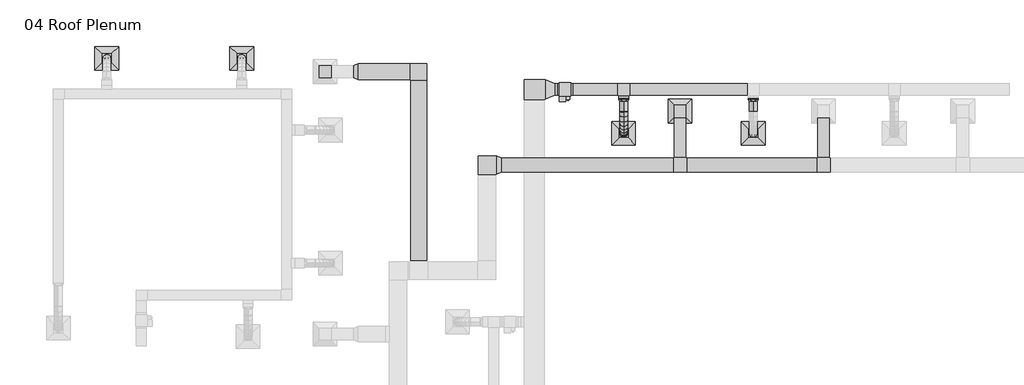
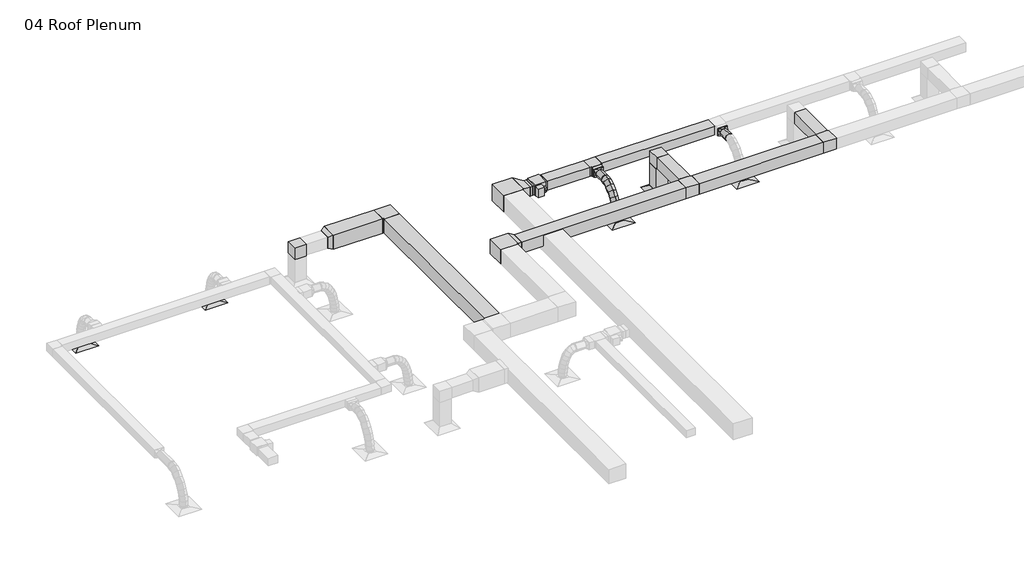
# One storey, part 7 of 9: 15 duct segments, 14 duct fittings, 5 air terminals, 1 proxy.
"""IFC4 building model written with IfcOpenShell, lengths in millimetres."""

from ifc_helpers import new_model, si_unit, point, frame, frame_2d, origin, place, context, project, spatial, polyline, circle_curve, ellipse_curve, trimmed, segment, composite_curve, outline, extrude, transform, mapped, element, save
from ifc_brep_helpers import plane_surface, cylinder_surface, advanced_brep
from components import return_diffuser_d30_returndiffuser_24x24_12x12_connection_ff543d60, supply_diffuser_rectangular_face_round_neck_d30_6390248a, bcn6785_vav_d30_vav3_6c2f60ad, rectangular_elbow_mitered_standard_d1889adf, rectangular_elbow_mitered_standard_946096ac, rectangular_elbow_mitered_standard_3a774ab6, rectangular_elbow_mitered_standard_4ff1c4e8, rectangular_tee_standard_b02a46a0, rectangular_tee_standard_ab376c81, rectangular_transition_angle_45_degree_0e490c41, rectangular_transition_angle_45_degree_c10597de, rectangular_transition_angle_45_degree_766f88a8, rectangular_transition_angle_45_degree_c4f24900, rectangular_to_round_transition_angle_45_degree_e9430680

model = new_model("IFC4")

# Units and contexts
model_context = context("Model", 3, world=origin())
ifc_project = project(units=[si_unit("LENGTHUNIT", "METRE", prefix="MILLI")], contexts=[model_context])

# Site, building, storey
site = spatial("IfcSite", under=ifc_project)
building = spatial("IfcBuilding", under=site)
storey = spatial("IfcBuildingStorey", under=building, Name="04 Roof Plenum", Elevation=12192.0)

# Air terminals
placement = place(None, origin())
return_diffuser_d30_returndiffuser_24x24_12x12_connection_shape = return_diffuser_d30_returndiffuser_24x24_12x12_connection_ff543d60(model_context)
element("IfcAirTerminal", 1, ObjectType="Return Diffuser : D30_ReturnDiffuser_24x24 12x12 Connection", at=placement, inside=storey, context=model_context, shape_type="MappedRepresentation", body=[
    mapped(return_diffuser_d30_returndiffuser_24x24_12x12_connection_shape, transform((-722.5099213, 10669.6809317, 12192.0), x_axis=(1.0, 0.0, 0.0), y_axis=(0.0, 1.0, 0.0), z_axis=(0.0, 0.0, 1.0))),
])
supply_diffuser_rectangular_face_round_neck_d30_shape = supply_diffuser_rectangular_face_round_neck_d30_6390248a(model_context)
element("IfcAirTerminal", 2, ObjectType="Supply Diffuser - Rectangular Face Round Neck : D30_SupplyDiffuser_24x24 8 Neck", at=placement, inside=storey, context=model_context, shape_type="MappedRepresentation", body=[
    mapped(supply_diffuser_rectangular_face_round_neck_d30_shape, transform((-2172.7067791, 10097.0921675, 12192.0), x_axis=(1.0, 0.0, 0.0), y_axis=(0.0, 1.0, 0.0), z_axis=(0.0, 0.0, 1.0))),
])
element("IfcAirTerminal", 3, ObjectType="Supply Diffuser - Rectangular Face Round Neck : D30_SupplyDiffuser_24x24 8 Neck", at=placement, inside=storey, context=model_context, shape_type="MappedRepresentation", body=[
    mapped(supply_diffuser_rectangular_face_round_neck_d30_shape, transform((1160.9657413, 10097.0921675, 12192.0), x_axis=(1.0, 0.0, 0.0), y_axis=(0.0, 1.0, 0.0), z_axis=(0.0, 0.0, 1.0))),
])
element("IfcAirTerminal", 4, ObjectType="Supply Diffuser - Rectangular Face Round Neck : D30_SupplyDiffuser_24x24 8 Neck", at=placement, inside=storey, context=model_context, shape_type="MappedRepresentation", body=[
    mapped(supply_diffuser_rectangular_face_round_neck_d30_shape, transform((-11992.0077013, 12027.4921675, 12192.0), x_axis=(1.0, 0.0, 0.0), y_axis=(0.0, 1.0, 0.0), z_axis=(0.0, 0.0, 1.0))),
])
element("IfcAirTerminal", 5, ObjectType="Supply Diffuser - Rectangular Face Round Neck : D30_SupplyDiffuser_24x24 8 Neck", at=placement, inside=storey, context=model_context, shape_type="MappedRepresentation", body=[
    mapped(supply_diffuser_rectangular_face_round_neck_d30_shape, transform((-15460.7496105, 12027.4921675, 12192.0), x_axis=(1.0, 0.0, 0.0), y_axis=(0.0, 1.0, 0.0), z_axis=(0.0, 0.0, 1.0))),
])

# Proxy
bcn6785_vav_d30_vav3_shape = bcn6785_vav_d30_vav3_6c2f60ad(model_context)
element("IfcBuildingElementProxy", 6, Name="BCN6785_VAV : D30_VAV3", ObjectType="BCN6785_VAV : D30_VAV3", at=placement, inside=storey, context=model_context, shape_type="MappedRepresentation", body=[
    mapped(bcn6785_vav_d30_vav3_shape, transform((-3823.797132, 11228.4809317, 12884.15), x_axis=(1.0, 0.0, 0.0), y_axis=(0.0, 1.0, 0.0), z_axis=(0.0, 0.0, 1.0))),
])

# Duct fittings
rectangular_elbow_mitered_standard_shape = rectangular_elbow_mitered_standard_d1889adf(model_context)
element("IfcDuctFitting", 7, ObjectType="Rectangular Elbow - Mitered : Standard", at=placement, inside=storey, context=model_context, shape_type="MappedRepresentation", body=[
    mapped(rectangular_elbow_mitered_standard_shape, transform((-7438.7501862, 11685.6809317, 13112.75), x_axis=(0.0, 1.0, 0.0), y_axis=(-1.0, 0.0, 0.0), z_axis=(0.0, 0.0, 1.0))),
])
rectangular_elbow_mitered_standard_2_shape = rectangular_elbow_mitered_standard_946096ac(model_context)
element("IfcDuctFitting", 8, ObjectType="Rectangular Elbow - Mitered : Standard", at=placement, inside=storey, context=model_context, shape_type="MappedRepresentation", body=[
    mapped(rectangular_elbow_mitered_standard_2_shape, transform((-4467.3142705, 11228.4809317, 13030.2), x_axis=(-1.0, 0.0, 0.0), y_axis=(0.0, -1.0, 0.0), z_axis=(0.0, 0.0, 1.0))),
])
rectangular_elbow_mitered_standard_3_shape = rectangular_elbow_mitered_standard_3a774ab6(model_context)
element("IfcDuctFitting", 9, ObjectType="Rectangular Elbow - Mitered : Standard", at=placement, inside=storey, context=model_context, shape_type="MappedRepresentation", body=[
    mapped(rectangular_elbow_mitered_standard_3_shape, transform((-5686.5142705, 9280.3101985, 13112.75), x_axis=(-1.0, 0.0, 0.0), y_axis=(0.0, -1.0, 0.0), z_axis=(0.0, 0.0, 1.0))),
])
rectangular_elbow_mitered_standard_4_shape = rectangular_elbow_mitered_standard_4ff1c4e8(model_context)
element("IfcDuctFitting", 10, ObjectType="Rectangular Elbow - Mitered : Standard", at=placement, inside=storey, context=model_context, shape_type="MappedRepresentation", body=[
    mapped(rectangular_elbow_mitered_standard_4_shape, transform((-722.5099213, 10669.6809317, 13112.75), x_axis=(0.0, 0.0, 1.0), y_axis=(0.0, -1.0, 0.0), z_axis=(1.0, 0.0, 0.0))),
])
element("IfcDuctFitting", 11, ObjectType="Rectangular Elbow - Mitered : Standard", at=placement, inside=storey, context=model_context, shape_type="MappedRepresentation", body=[
    mapped(rectangular_elbow_mitered_standard_4_shape, transform((-9849.7375216, 11685.6809317, 13112.75), x_axis=(0.0, 0.0, 1.0), y_axis=(1.0, 0.0, 0.0), z_axis=(0.0, 1.0, 0.0))),
])
rectangular_tee_standard_shape = rectangular_tee_standard_b02a46a0(model_context)
element("IfcDuctFitting", 12, ObjectType="Rectangular Tee : Standard", at=placement, inside=storey, context=model_context, shape_type="MappedRepresentation", body=[
    mapped(rectangular_tee_standard_shape, transform((-722.5099213, 9280.3101985, 13112.75), x_axis=(-1.0, 0.0, 0.0), y_axis=(0.0, -1.0, 0.0), z_axis=(0.0, 0.0, 1.0))),
])
element("IfcDuctFitting", 13, ObjectType="Rectangular Tee : Standard", at=placement, inside=storey, context=model_context, shape_type="MappedRepresentation", body=[
    mapped(rectangular_tee_standard_shape, transform((2965.5286275, 9280.3101985, 13112.75), x_axis=(-1.0, 0.0, 0.0), y_axis=(0.0, -1.0, 0.0), z_axis=(0.0, 0.0, 1.0))),
])
rectangular_tee_standard_2_shape = rectangular_tee_standard_ab376c81(model_context)
element("IfcDuctFitting", 14, ObjectType="Rectangular Tee : Standard", at=placement, inside=storey, context=model_context, shape_type="MappedRepresentation", body=[
    mapped(rectangular_tee_standard_2_shape, transform((-2172.7067791, 11228.4809317, 13030.2), x_axis=(1.0, 0.0, 0.0), y_axis=(0.0, 1.0, 0.0), z_axis=(0.0, 0.0, 1.0))),
])
rectangular_transition_angle_45_degree_shape = rectangular_transition_angle_45_degree_0e490c41(model_context)
element("IfcDuctFitting", 15, ObjectType="Rectangular Transition - Angle : 45 Degree", at=placement, inside=storey, context=model_context, shape_type="MappedRepresentation", body=[
    mapped(rectangular_transition_angle_45_degree_shape, transform((-8996.0876862, 11685.6809317, 13112.75), x_axis=(-1.0, 0.0, 0.0), y_axis=(0.0, -1.0, 0.0), z_axis=(0.0, 0.0, 1.0))),
])
rectangular_transition_angle_45_degree_2_shape = rectangular_transition_angle_45_degree_c10597de(model_context)
element("IfcDuctFitting", 16, ObjectType="Rectangular Transition - Angle : 45 Degree", at=placement, inside=storey, context=model_context, shape_type="MappedRepresentation", body=[
    mapped(rectangular_transition_angle_45_degree_2_shape, transform((-5432.5142705, 9280.3101985, 13112.75), x_axis=(1.0, 0.0, 0.0), y_axis=(0.0, 1.0, 0.0), z_axis=(0.0, 0.0, 1.0))),
])
rectangular_transition_angle_45_degree_3_shape = rectangular_transition_angle_45_degree_766f88a8(model_context)
element("IfcDuctFitting", 17, ObjectType="Rectangular Transition - Angle : 45 Degree", at=placement, inside=storey, context=model_context, shape_type="MappedRepresentation", body=[
    mapped(rectangular_transition_angle_45_degree_3_shape, transform((-4187.9142705, 11228.4809317, 13030.2), x_axis=(1.0, 0.0, 0.0), y_axis=(0.0, 1.0, 0.0), z_axis=(0.0, 0.0, 1.0))),
])
rectangular_transition_angle_45_degree_4_shape = rectangular_transition_angle_45_degree_c4f24900(model_context)
element("IfcDuctFitting", 18, ObjectType="Rectangular Transition - Angle : 45 Degree", at=placement, inside=storey, context=model_context, shape_type="MappedRepresentation", body=[
    mapped(rectangular_transition_angle_45_degree_4_shape, transform((-2172.7067791, 11050.6809317, 13030.2), x_axis=(0.0, -1.0, 0.0), y_axis=(1.0, 0.0, 0.0), z_axis=(0.0, 0.0, 1.0))),
])
rectangular_to_round_transition_angle_45_degree_shape = rectangular_to_round_transition_angle_45_degree_e9430680(model_context)
element("IfcDuctFitting", 19, ObjectType="Rectangular to Round Transition - Angle : 45 Degree", at=placement, inside=storey, context=model_context, shape_type="MappedRepresentation", body=[
    mapped(rectangular_to_round_transition_angle_45_degree_shape, transform((-2172.7067791, 10974.4809317, 13030.2), x_axis=(0.0, -1.0, 0.0), y_axis=(1.0, 0.0, 0.0), z_axis=(0.0, 0.0, 1.0))),
])
element("IfcDuctFitting", 20, ObjectType="Rectangular to Round Transition - Angle : 45 Degree", at=placement, inside=storey, context=model_context, shape_type="MappedRepresentation", body=[
    mapped(rectangular_to_round_transition_angle_45_degree_shape, transform((1160.9657413, 10974.4809317, 13030.2), x_axis=(0.0, -1.0, 0.0), y_axis=(1.0, 0.0, 0.0), z_axis=(0.0, 0.0, 1.0))),
])

# Duct segments
element("IfcDuctSegment", 21, ObjectType="Flex - Round", at=placement, inside=storey, context=model_context, shape_type="AdvancedBrep", body=[
    advanced_brep(
    [(-2071.1067791, 10669.6809317, 13030.2), (-2172.7067791, 10669.6809317, 12928.6), (-2274.3067791, 10669.6809317, 13030.2), (-2172.7067791, 10669.6809317, 13131.8), (-2071.1067791, 10652.2882316, 13030.2), (-2172.7067791, 10662.5424009, 12928.6), (-2274.3067791, 10652.2882316, 13030.2), (-2172.7067791, 10642.0340622, 13131.8), (-2071.1067791, 10097.0921675, 12245.975), (-2172.7067791, 9995.4921675, 12245.975), (-2274.3067791, 10097.0921675, 12245.975), (-2172.7067791, 10198.6921675, 12245.975), (-2071.1067791, 10552.1485052, 13009.7784039), (-2172.7067791, 10586.4635053, 12913.0851535), (-2274.3067791, 10552.1485052, 13009.7784039), (-2172.7067791, 10517.8335052, 13106.4716542), (-2071.1067791, 10443.6651982, 12953.1810901), (-2172.7067791, 10501.5750524, 12868.7976172), (-2274.3067791, 10443.6651982, 12953.1810901), (-2172.7067791, 10385.755344, 13037.5645631), (-2071.1067791, 10346.2719981, 12867.4092706), (-2172.7067791, 10420.5307901, 12797.423909), (-2274.3067791, 10346.2719981, 12867.4092706), (-2172.7067791, 10272.0132062, 12937.3946321), (-2071.1067791, 10262.0098926, 12759.464157), (-2172.7067791, 10346.840584, 12703.0220706), (-2274.3067791, 10262.0098926, 12759.464157), (-2172.7067791, 10177.1792012, 12815.9062434), (-2071.1067791, 10192.9198692, 12636.3469613), (-2172.7067791, 10284.8852402, 12592.6187474), (-2274.3067791, 10192.9198692, 12636.3469613), (-2172.7067791, 10100.9544982, 12680.0751753), (-2071.1067791, 10141.0429155, 12505.0588954), (-2172.7067791, 10238.0545241, 12474.1014926), (-2274.3067791, 10141.0429155, 12505.0588954), (-2172.7067791, 10044.0313069, 12536.0162982), (-2071.1067791, 10108.4200191, 12372.601171), (-2172.7067791, 10208.8419323, 12355.4905212), (-2274.3067791, 10108.4200191, 12372.601171), (-2172.7067791, 10007.9981059, 12389.7118208), (-2071.1067791, 10097.0921675, 12255.0278826), (-2172.7067791, 10198.6921675, 12250.1447533), (-2274.3067791, 10097.0921675, 12255.0278826), (-2172.7067791, 9995.4921675, 12259.911012)],
    [
        (0, 1, circle_curve(frame((-2172.7067791, 10669.6809317, 13030.2), z_axis=(0.0, 1.0, 0.0), x_axis=(1.0, 0.0, 0.0)), 101.6)),
        (1, 2, circle_curve(frame((-2172.7067791, 10669.6809317, 13030.2), z_axis=(0.0, 1.0, 0.0), x_axis=(1.0, 0.0, 0.0)), 101.6)),
        (2, 3, circle_curve(frame((-2172.7067791, 10669.6809317, 13030.2), z_axis=(0.0, 1.0, 0.0), x_axis=(1.0, 0.0, 0.0)), 101.6)),
        (3, 0, circle_curve(frame((-2172.7067791, 10669.6809317, 13030.2), z_axis=(0.0, 1.0, 0.0), x_axis=(1.0, 0.0, 0.0)), 101.6)),
        (0, 4),
        (4, 5, ellipse_curve(frame((-2172.7067791, 10652.2882316, 13030.2), z_axis=(0.0, 0.9949454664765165, 0.10041672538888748), x_axis=(0.0, 0.10041672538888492, -0.9949454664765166)), 102.1161495, 101.6)),
        (5, 1),
        (5, 6, ellipse_curve(frame((-2172.7067791, 10652.2882316, 13030.2), z_axis=(0.0, 0.9949454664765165, 0.10041672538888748), x_axis=(0.0, 0.10041672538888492, -0.9949454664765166)), 102.1161495, 101.6)),
        (6, 2),
        (6, 7, ellipse_curve(frame((-2172.7067791, 10652.2882316, 13030.2), z_axis=(0.0, 0.9949454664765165, 0.10041672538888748), x_axis=(0.0, 0.10041672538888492, -0.9949454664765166)), 102.1161495, 101.6)),
        (7, 3),
        (7, 4, ellipse_curve(frame((-2172.7067791, 10652.2882316, 13030.2), z_axis=(0.0, 0.9949454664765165, 0.10041672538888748), x_axis=(0.0, 0.10041672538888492, -0.9949454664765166)), 102.1161495, 101.6)),
        (8, 9, circle_curve(frame((-2172.7067791, 10097.0921675, 12245.975), z_axis=(0.0, 0.0, -1.0), x_axis=(1.0, 0.0, 0.0)), 101.6)),
        (9, 10, circle_curve(frame((-2172.7067791, 10097.0921675, 12245.975), z_axis=(0.0, 0.0, -1.0), x_axis=(1.0, 0.0, 0.0)), 101.6)),
        (10, 11, circle_curve(frame((-2172.7067791, 10097.0921675, 12245.975), z_axis=(0.0, 0.0, -1.0), x_axis=(1.0, 0.0, 0.0)), 101.6)),
        (11, 8, circle_curve(frame((-2172.7067791, 10097.0921675, 12245.975), z_axis=(0.0, 0.0, -1.0), x_axis=(1.0, 0.0, 0.0)), 101.6)),
        (4, 12),
        (12, 13, ellipse_curve(frame((-2172.7067791, 10552.1485052, 13009.7784039), z_axis=(0.0, 0.9424139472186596, 0.33444872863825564), x_axis=(0.0, 0.3344487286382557, -0.9424139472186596)), 102.6016759, 101.6)),
        (13, 5),
        (13, 14, ellipse_curve(frame((-2172.7067791, 10552.1485052, 13009.7784039), z_axis=(0.0, 0.9424139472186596, 0.33444872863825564), x_axis=(0.0, 0.3344487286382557, -0.9424139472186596)), 102.6016759, 101.6)),
        (14, 6),
        (14, 15, ellipse_curve(frame((-2172.7067791, 10552.1485052, 13009.7784039), z_axis=(0.0, 0.9424139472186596, 0.33444872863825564), x_axis=(0.0, 0.3344487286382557, -0.9424139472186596)), 102.6016759, 101.6)),
        (15, 7),
        (15, 12, ellipse_curve(frame((-2172.7067791, 10552.1485052, 13009.7784039), z_axis=(0.0, 0.9424139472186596, 0.33444872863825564), x_axis=(0.0, 0.3344487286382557, -0.9424139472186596)), 102.6016759, 101.6)),
        (12, 16),
        (16, 17, ellipse_curve(frame((-2172.7067791, 10443.6651982, 12953.1810901), z_axis=(0.0, 0.8245150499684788, 0.565840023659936), x_axis=(0.0, 0.5658400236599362, -0.8245150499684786)), 102.3431567, 101.6)),
        (17, 13),
        (17, 18, ellipse_curve(frame((-2172.7067791, 10443.6651982, 12953.1810901), z_axis=(0.0, 0.8245150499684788, 0.565840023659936), x_axis=(0.0, 0.5658400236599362, -0.8245150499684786)), 102.3431567, 101.6)),
        (18, 14),
        (18, 19, ellipse_curve(frame((-2172.7067791, 10443.6651982, 12953.1810901), z_axis=(0.0, 0.8245150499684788, 0.565840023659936), x_axis=(0.0, 0.5658400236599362, -0.8245150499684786)), 102.3431567, 101.6)),
        (19, 15),
        (19, 16, ellipse_curve(frame((-2172.7067791, 10443.6651982, 12953.1810901), z_axis=(0.0, 0.8245150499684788, 0.565840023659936), x_axis=(0.0, 0.5658400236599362, -0.8245150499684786)), 102.3431567, 101.6)),
        (16, 20),
        (20, 21, ellipse_curve(frame((-2172.7067791, 10346.2719981, 12867.4092706), z_axis=(0.0, 0.6858568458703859, 0.7277364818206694), x_axis=(0.0, 0.7277364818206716, -0.6858568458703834)), 102.0407714, 101.6)),
        (21, 17),
        (21, 22, ellipse_curve(frame((-2172.7067791, 10346.2719981, 12867.4092706), z_axis=(0.0, 0.6858568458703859, 0.7277364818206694), x_axis=(0.0, 0.7277364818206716, -0.6858568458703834)), 102.0407714, 101.6)),
        (22, 18),
        (22, 23, ellipse_curve(frame((-2172.7067791, 10346.2719981, 12867.4092706), z_axis=(0.0, 0.6858568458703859, 0.7277364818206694), x_axis=(0.0, 0.7277364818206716, -0.6858568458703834)), 102.0407714, 101.6)),
        (23, 19),
        (23, 20, ellipse_curve(frame((-2172.7067791, 10346.2719981, 12867.4092706), z_axis=(0.0, 0.6858568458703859, 0.7277364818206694), x_axis=(0.0, 0.7277364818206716, -0.6858568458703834)), 102.0407714, 101.6)),
        (20, 24),
        (24, 25, ellipse_curve(frame((-2172.7067791, 10262.0098926, 12759.464157), z_axis=(0.0, 0.5539409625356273, 0.8325559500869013), x_axis=(0.0, 0.8325559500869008, -0.5539409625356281)), 101.8918805, 101.6)),
        (25, 21),
        (25, 26, ellipse_curve(frame((-2172.7067791, 10262.0098926, 12759.464157), z_axis=(0.0, 0.5539409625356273, 0.8325559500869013), x_axis=(0.0, 0.8325559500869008, -0.5539409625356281)), 101.8918805, 101.6)),
        (26, 22),
        (26, 27, ellipse_curve(frame((-2172.7067791, 10262.0098926, 12759.464157), z_axis=(0.0, 0.5539409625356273, 0.8325559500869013), x_axis=(0.0, 0.8325559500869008, -0.5539409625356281)), 101.8918805, 101.6)),
        (27, 23),
        (27, 24, ellipse_curve(frame((-2172.7067791, 10262.0098926, 12759.464157), z_axis=(0.0, 0.5539409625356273, 0.8325559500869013), x_axis=(0.0, 0.8325559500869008, -0.5539409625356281)), 101.8918805, 101.6)),
        (24, 28),
        (28, 29, ellipse_curve(frame((-2172.7067791, 10192.9198692, 12636.3469613), z_axis=(0.0, 0.4294146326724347, 0.903107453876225), x_axis=(0.0, 0.9031074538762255, -0.42941463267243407)), 101.832147, 101.6)),
        (29, 25),
        (29, 30, ellipse_curve(frame((-2172.7067791, 10192.9198692, 12636.3469613), z_axis=(0.0, 0.4294146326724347, 0.903107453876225), x_axis=(0.0, 0.9031074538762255, -0.42941463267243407)), 101.832147, 101.6)),
        (30, 26),
        (30, 31, ellipse_curve(frame((-2172.7067791, 10192.9198692, 12636.3469613), z_axis=(0.0, 0.4294146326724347, 0.903107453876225), x_axis=(0.0, 0.9031074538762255, -0.42941463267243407)), 101.832147, 101.6)),
        (31, 27),
        (31, 28, ellipse_curve(frame((-2172.7067791, 10192.9198692, 12636.3469613), z_axis=(0.0, 0.4294146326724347, 0.903107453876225), x_axis=(0.0, 0.9031074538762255, -0.42941463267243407)), 101.832147, 101.6)),
        (28, 32),
        (32, 33, ellipse_curve(frame((-2172.7067791, 10141.0429155, 12505.0588954), z_axis=(0.0, 0.3040067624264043, 0.9526698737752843), x_axis=(0.0, 0.9526698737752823, -0.30400676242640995)), 101.8312967, 101.6)),
        (33, 29),
        (33, 34, ellipse_curve(frame((-2172.7067791, 10141.0429155, 12505.0588954), z_axis=(0.0, 0.3040067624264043, 0.9526698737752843), x_axis=(0.0, 0.9526698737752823, -0.30400676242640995)), 101.8312967, 101.6)),
        (34, 30),
        (34, 35, ellipse_curve(frame((-2172.7067791, 10141.0429155, 12505.0588954), z_axis=(0.0, 0.3040067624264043, 0.9526698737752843), x_axis=(0.0, 0.9526698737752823, -0.30400676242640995)), 101.8312967, 101.6)),
        (35, 31),
        (35, 32, ellipse_curve(frame((-2172.7067791, 10141.0429155, 12505.0588954), z_axis=(0.0, 0.3040067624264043, 0.9526698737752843), x_axis=(0.0, 0.9526698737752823, -0.30400676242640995)), 101.8312967, 101.6)),
        (32, 36),
        (36, 37, ellipse_curve(frame((-2172.7067791, 10108.4200191, 12372.601171), z_axis=(0.0, 0.1679668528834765, 0.9857926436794), x_axis=(0.0, 0.9857926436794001, -0.16796685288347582)), 101.8692053, 101.6)),
        (37, 33),
        (37, 38, ellipse_curve(frame((-2172.7067791, 10108.4200191, 12372.601171), z_axis=(0.0, 0.1679668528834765, 0.9857926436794), x_axis=(0.0, 0.9857926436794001, -0.16796685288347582)), 101.8692053, 101.6)),
        (38, 34),
        (38, 39, ellipse_curve(frame((-2172.7067791, 10108.4200191, 12372.601171), z_axis=(0.0, 0.1679668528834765, 0.9857926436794), x_axis=(0.0, 0.9857926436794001, -0.16796685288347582)), 101.8692053, 101.6)),
        (39, 35),
        (39, 36, ellipse_curve(frame((-2172.7067791, 10108.4200191, 12372.601171), z_axis=(0.0, 0.1679668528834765, 0.9857926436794), x_axis=(0.0, 0.9857926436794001, -0.16796685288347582)), 101.8692053, 101.6)),
        (36, 40),
        (40, 41, ellipse_curve(frame((-2172.7067791, 10097.0921675, 12255.0278826), z_axis=(0.0, 0.048006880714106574, 0.9988470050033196), x_axis=(0.0, 0.9988470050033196, -0.04800688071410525)), 101.7172795, 101.6)),
        (41, 37),
        (41, 42, ellipse_curve(frame((-2172.7067791, 10097.0921675, 12255.0278826), z_axis=(0.0, 0.048006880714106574, 0.9988470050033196), x_axis=(0.0, 0.9988470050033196, -0.04800688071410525)), 101.7172795, 101.6)),
        (42, 38),
        (42, 43, ellipse_curve(frame((-2172.7067791, 10097.0921675, 12255.0278826), z_axis=(0.0, 0.048006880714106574, 0.9988470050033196), x_axis=(0.0, 0.9988470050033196, -0.04800688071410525)), 101.7172795, 101.6)),
        (43, 39),
        (43, 40, ellipse_curve(frame((-2172.7067791, 10097.0921675, 12255.0278826), z_axis=(0.0, 0.048006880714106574, 0.9988470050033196), x_axis=(0.0, 0.9988470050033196, -0.04800688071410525)), 101.7172795, 101.6)),
        (40, 8),
        (11, 41),
        (10, 42),
        (9, 43),
    ],
    [
        plane_surface(frame((-2274.3067791, 10669.6809317, 13030.2), z_axis=(0.0, 1.0, 0.0), x_axis=(0.0, 0.0, -1.0))),
        cylinder_surface(frame((-2172.7067791, 10669.6809317, 13030.2), z_axis=(0.0, 1.0, 0.0), x_axis=(1.0, 0.0, 0.0)), 101.6),
        plane_surface(frame((-2172.7067791, 9995.4921675, 12245.975), z_axis=(0.0, 0.0, -1.0), x_axis=(-1.0, 0.0, 0.0))),
        cylinder_surface(frame((-2172.7067791, 10652.2882316, 13030.2), z_axis=(0.0, 0.9798329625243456, 0.19981833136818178), x_axis=(1.0, 0.0, 0.0)), 101.6),
        cylinder_surface(frame((-2172.7067791, 10552.1485052, 13009.7784039), z_axis=(0.0, 0.8865938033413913, 0.46254883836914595), x_axis=(1.0, 0.0, 0.0)), 101.6),
        cylinder_surface(frame((-2172.7067791, 10443.6651982, 12953.1810901), z_axis=(0.0, 0.7504619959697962, 0.6609136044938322), x_axis=(1.0, 0.0, 0.0)), 101.6),
        cylinder_surface(frame((-2172.7067791, 10346.2719981, 12867.4092706), z_axis=(0.0, 0.6153264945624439, 0.7882723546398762), x_axis=(1.0, 0.0, 0.0)), 101.6),
        cylinder_surface(frame((-2172.7067791, 10262.0098926, 12759.464157), z_axis=(0.0, 0.4893817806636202, 0.8720696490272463), x_axis=(1.0, 0.0, 0.0)), 101.6),
        cylinder_surface(frame((-2172.7067791, 10192.9198692, 12636.3469613), z_axis=(0.0, 0.36748960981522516, 0.9300276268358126), x_axis=(1.0, 0.0, 0.0)), 101.6),
        cylinder_surface(frame((-2172.7067791, 10141.0429155, 12505.0588954), z_axis=(0.0, 0.239142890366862, 0.9709843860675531), x_axis=(1.0, 0.0, 0.0)), 101.6),
        cylinder_surface(frame((-2172.7067791, 10108.4200191, 12372.601171), z_axis=(0.0, 0.09590305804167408, 0.9953906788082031), x_axis=(1.0, 0.0, 0.0)), 101.6),
        cylinder_surface(frame((-2172.7067791, 10097.0921675, 12255.0278826), z_axis=(0.0, 0.0, 1.0), x_axis=(1.0, 0.0, 0.0)), 101.6),
    ],
    [
        (0, [[1, 2, 3, 4]]),
        (1, [[-1, 5, 6, 7]]),
        (1, [[-2, -7, 8, 9]]),
        (1, [[-3, -9, 10, 11]]),
        (1, [[-4, -11, 12, -5]]),
        (2, [[13, 14, 15, 16]]),
        (3, [[-6, 17, 18, 19]]),
        (3, [[-8, -19, 20, 21]]),
        (3, [[-10, -21, 22, 23]]),
        (3, [[-12, -23, 24, -17]]),
        (4, [[-18, 25, 26, 27]]),
        (4, [[-20, -27, 28, 29]]),
        (4, [[-22, -29, 30, 31]]),
        (4, [[-24, -31, 32, -25]]),
        (5, [[-26, 33, 34, 35]]),
        (5, [[-28, -35, 36, 37]]),
        (5, [[-30, -37, 38, 39]]),
        (5, [[-32, -39, 40, -33]]),
        (6, [[-34, 41, 42, 43]]),
        (6, [[-36, -43, 44, 45]]),
        (6, [[-38, -45, 46, 47]]),
        (6, [[-40, -47, 48, -41]]),
        (7, [[-42, 49, 50, 51]]),
        (7, [[-44, -51, 52, 53]]),
        (7, [[-46, -53, 54, 55]]),
        (7, [[-48, -55, 56, -49]]),
        (8, [[-50, 57, 58, 59]]),
        (8, [[-52, -59, 60, 61]]),
        (8, [[-54, -61, 62, 63]]),
        (8, [[-56, -63, 64, -57]]),
        (9, [[-58, 65, 66, 67]]),
        (9, [[-60, -67, 68, 69]]),
        (9, [[-62, -69, 70, 71]]),
        (9, [[-64, -71, 72, -65]]),
        (10, [[-66, 73, 74, 75]]),
        (10, [[-68, -75, 76, 77]]),
        (10, [[-70, -77, 78, 79]]),
        (10, [[-72, -79, 80, -73]]),
        (11, [[-74, 81, -16, 82]]),
        (11, [[-76, -82, -15, 83]]),
        (11, [[-78, -83, -14, 84]]),
        (11, [[-80, -84, -13, -81]]),
    ],
),
])
element("IfcDuctSegment", 22, ObjectType="Mitered Elbows / Taps", at=placement, inside=storey, context=model_context, shape_type="SweptSolid", body=[
    extrude(outline(polyline([(-5309.8722215, 9102.5101985), (-5309.8722215, 9458.1101985), (-900.3099213, 9458.1101985), (-900.3099213, 9102.5101985), (-5309.8722215, 9102.5101985)])), frame((0.0, 0.0, 12960.35), z_axis=(0.0, 0.0, 1.0), x_axis=(1.0, 0.0, 0.0)), (0.0, 0.0, 1.0), 304.8),
])
element("IfcDuctSegment", 23, ObjectType="Mitered Elbows / Taps", at=placement, inside=storey, context=model_context, shape_type="SweptSolid", body=[
    extrude(outline(polyline([(-544.7099213, 9102.5101985), (-544.7099213, 9458.1101985), (2787.7286275, 9458.1101985), (2787.7286275, 9102.5101985), (-544.7099213, 9102.5101985)])), frame((0.0, 0.0, 12960.35), z_axis=(0.0, 0.0, 1.0), x_axis=(1.0, 0.0, 0.0)), (0.0, 0.0, 1.0), 304.8),
])
element("IfcDuctSegment", 24, ObjectType="Mitered Elbows / Tees", at=placement, inside=storey, context=model_context, shape_type="SweptSolid", body=[
    extrude(outline(polyline([(-3942.6301726, 11076.0809317), (-3942.6301726, 11380.8809317), (-3874.597132, 11380.8809317), (-3874.597132, 11076.0809317), (-3942.6301726, 11076.0809317)])), frame((0.0, 0.0, 12903.2), z_axis=(0.0, 0.0, 1.0), x_axis=(1.0, 0.0, 0.0)), (0.0, 0.0, 1.0), 254.0),
])
element("IfcDuctSegment", 25, ObjectType="Mitered Elbows / Tees", at=placement, inside=storey, context=model_context, shape_type="SweptSolid", body=[
    extrude(outline(polyline([(-2299.7067791, 10989.3599073), (-2045.7067791, 10989.3599073), (-2045.7067791, 10974.4809317), (-2299.7067791, 10974.4809317), (-2299.7067791, 10989.3599073)])), frame((0.0, 0.0, 12928.6), z_axis=(0.0, 0.0, 1.0), x_axis=(1.0, 0.0, 0.0)), (0.0, 0.0, 1.0), 203.2),
])
element("IfcDuctSegment", 26, ObjectType="Mitered Elbows / Tees", at=placement, inside=storey, context=model_context, shape_type="SweptSolid", body=[
    extrude(outline(polyline([(-3480.897132, 11076.0809317), (-3480.897132, 11380.8809317), (-2325.1067791, 11380.8809317), (-2325.1067791, 11076.0809317), (-3480.897132, 11076.0809317)])), frame((0.0, 0.0, 12903.2), z_axis=(0.0, 0.0, 1.0), x_axis=(1.0, 0.0, 0.0)), (0.0, 0.0, 1.0), 254.0),
])
element("IfcDuctSegment", 27, ObjectType="Mitered Elbows / Tees", at=placement, inside=storey, context=model_context, shape_type="SweptSolid", body=[
    extrude(outline(polyline([(1033.9657413, 10989.3599073), (1287.9657413, 10989.3599073), (1287.9657413, 10974.4809317), (1033.9657413, 10974.4809317), (1033.9657413, 10989.3599073)])), frame((0.0, 0.0, 12928.6), z_axis=(0.0, 0.0, 1.0), x_axis=(1.0, 0.0, 0.0)), (0.0, 0.0, 1.0), 203.2),
])
element("IfcDuctSegment", 28, ObjectType="Mitered Elbows / Tees", at=placement, inside=storey, context=model_context, shape_type="SweptSolid", body=[
    extrude(outline(polyline([(-2020.3067791, 11076.0809317), (-2020.3067791, 11380.8809317), (1008.5657413, 11380.8809317), (1008.5657413, 11076.0809317), (-2020.3067791, 11076.0809317)])), frame((0.0, 0.0, 12903.2), z_axis=(0.0, 0.0, 1.0), x_axis=(1.0, 0.0, 0.0)), (0.0, 0.0, 1.0), 254.0),
])
element("IfcDuctSegment", 29, ObjectType="Mitered Elbows / Tees", at=placement, inside=storey, context=model_context, shape_type="SweptSolid", body=[
    extrude(outline(polyline([(-570.1099213, 9483.5101985), (-874.9099213, 9483.5101985), (-874.9099213, 10491.8809317), (-570.1099213, 10491.8809317), (-570.1099213, 9483.5101985)])), frame((0.0, 0.0, 12960.35), z_axis=(0.0, 0.0, 1.0), x_axis=(1.0, 0.0, 0.0)), (0.0, 0.0, 1.0), 304.8),
])
element("IfcDuctSegment", 30, ObjectType="Mitered Elbows / Tees", at=placement, inside=storey, context=model_context, shape_type="SweptSolid", body=[
    extrude(outline(polyline([(3117.9286275, 9483.5101985), (2813.1286275, 9483.5101985), (2813.1286275, 10491.8809317), (3117.9286275, 10491.8809317), (3117.9286275, 9483.5101985)])), frame((0.0, 0.0, 12960.35), z_axis=(0.0, 0.0, 1.0), x_axis=(1.0, 0.0, 0.0)), (0.0, 0.0, 1.0), 304.8),
])
element("IfcDuctSegment", 31, ObjectType="Mitered Elbows / Tees", at=placement, inside=storey, context=model_context, shape_type="SweptSolid", body=[
    extrude(outline(polyline([(-874.9099213, 10822.0809317), (-570.1099213, 10822.0809317), (-570.1099213, 10517.2809317), (-874.9099213, 10517.2809317), (-874.9099213, 10822.0809317)])), frame((0.0, 0.0, 12293.6), z_axis=(0.0, 0.0, 1.0), x_axis=(1.0, 0.0, 0.0)), (0.0, 0.0, 1.0), 641.35),
])
element("IfcDuctSegment", 32, ObjectType="Mitered Elbows / Tees", at=placement, inside=storey, context=model_context, shape_type="SweptSolid", body=[
    extrude(outline(polyline([(-7235.5501862, 6816.5101985), (-7641.9501862, 6816.5101985), (-7641.9501862, 11457.0809317), (-7235.5501862, 11457.0809317), (-7235.5501862, 6816.5101985)])), frame((0.0, 0.0, 12909.55), z_axis=(0.0, 0.0, 1.0), x_axis=(1.0, 0.0, 0.0)), (0.0, 0.0, 1.0), 406.4),
])
element("IfcDuctSegment", 33, ObjectType="Mitered Elbows / Tees", at=placement, inside=storey, context=model_context, shape_type="SweptSolid", body=[
    extrude(outline(polyline([(-7667.3501862, 11888.8809317), (-7667.3501862, 11482.4809317), (-8996.0876862, 11482.4809317), (-8996.0876862, 11888.8809317), (-7667.3501862, 11888.8809317)])), frame((0.0, 0.0, 12909.55), z_axis=(0.0, 0.0, 1.0), x_axis=(1.0, 0.0, 0.0)), (0.0, 0.0, 1.0), 406.4),
])
element("IfcDuctSegment", 34, ObjectType="Taps", at=placement, inside=storey, context=model_context, shape_type="SweptSolid", body=[
    extrude(outline(composite_curve([segment(trimmed(circle_curve(frame_2d((13030.2, -2172.7067791)), 101.6), [point((13030.2, -2274.3067791))], [point((12928.6, -2172.7067791))], False, "CARTESIAN"), True, "CONTINUOUS"), segment(trimmed(circle_curve(frame_2d((13030.2, -2172.7067791)), 101.6), [point((12928.6, -2172.7067791))], [point((13030.2, -2071.1067791))], False, "CARTESIAN"), True, "CONTINUOUS"), segment(trimmed(circle_curve(frame_2d((13030.2, -2172.7067791)), 101.6), [point((13030.2, -2071.1067791))], [point((13131.8, -2172.7067791))], False, "CARTESIAN"), True, "CONTINUOUS"), segment(trimmed(circle_curve(frame_2d((13030.2, -2172.7067791)), 101.6), [point((13131.8, -2172.7067791))], [point((13030.2, -2274.3067791))], False, "CARTESIAN"), True, "CONTINUOUS")], self_intersect=False)), frame((0.0, 10669.6809317, 0.0), z_axis=(0.0, 1.0, 0.0), x_axis=(0.0, 0.0, 1.0)), (0.0, 0.0, 1.0), 243.4789755),
])
element("IfcDuctSegment", 35, ObjectType="Taps", at=placement, inside=storey, context=model_context, shape_type="SweptSolid", body=[
    extrude(outline(composite_curve([segment(trimmed(circle_curve(frame_2d((13030.2, 1160.9657413)), 101.6), [point((13030.2, 1059.3657413))], [point((12928.6, 1160.9657413))], False, "CARTESIAN"), True, "CONTINUOUS"), segment(trimmed(circle_curve(frame_2d((13030.2, 1160.9657413)), 101.6), [point((12928.6, 1160.9657413))], [point((13030.2, 1262.5657413))], False, "CARTESIAN"), True, "CONTINUOUS"), segment(trimmed(circle_curve(frame_2d((13030.2, 1160.9657413)), 101.6), [point((13030.2, 1262.5657413))], [point((13131.8, 1160.9657413))], False, "CARTESIAN"), True, "CONTINUOUS"), segment(trimmed(circle_curve(frame_2d((13030.2, 1160.9657413)), 101.6), [point((13131.8, 1160.9657413))], [point((13030.2, 1059.3657413))], False, "CARTESIAN"), True, "CONTINUOUS")], self_intersect=False)), frame((0.0, 10669.6809317, 0.0), z_axis=(0.0, 1.0, 0.0), x_axis=(0.0, 0.0, 1.0)), (0.0, 0.0, 1.0), 243.4789755),
])

save(model, "model.ifc")
